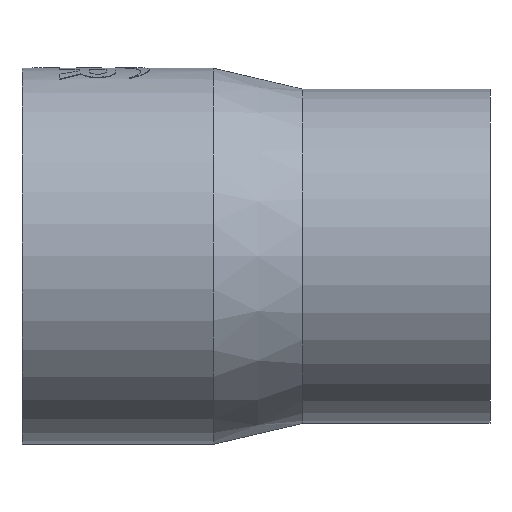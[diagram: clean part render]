
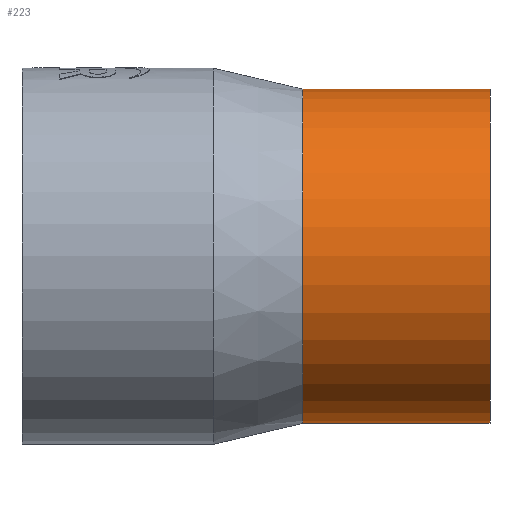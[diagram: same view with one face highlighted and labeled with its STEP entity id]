
A CAD part, front view. The second image highlights one B-rep face of the part: STEP entity #223.
In plain terms, the highlighted cylindrical face has radius 140 mm (diameter 280 mm), a partial arc.
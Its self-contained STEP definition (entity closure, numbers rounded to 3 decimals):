
#23 = AXIS2_PLACEMENT_3D ( 'NONE', #832, #820, #808 ) ;
#103 = VERTEX_POINT ( 'NONE', #2953 ) ;
#220 = AXIS2_PLACEMENT_3D ( 'NONE', #2822, #2896, #2737 ) ;
#223 = ADVANCED_FACE ( 'NONE', ( #2469 ), #2663, .T. ) ;
#376 = DIRECTION ( 'NONE',  ( -1., 0., 0. ) ) ;
#391 = CARTESIAN_POINT ( 'NONE',  ( -0.3, 0., 140. ) ) ;
#445 = EDGE_CURVE ( 'NONE', #103, #2338, #2123, .T. ) ;
#532 = CIRCLE ( 'NONE', #23, 140. ) ;
#589 = EDGE_CURVE ( 'NONE', #3137, #2338, #532, .T. ) ;
#597 = CARTESIAN_POINT ( 'NONE',  ( -0.3, 0., -140. ) ) ;
#600 = CARTESIAN_POINT ( 'NONE',  ( 392., 0., -140. ) ) ;
#674 = ORIENTED_EDGE ( 'NONE', *, *, #1846, .F. ) ;
#808 = DIRECTION ( 'NONE',  ( 0., 0., 1. ) ) ;
#820 = DIRECTION ( 'NONE',  ( -1., 0., 0. ) ) ;
#832 = CARTESIAN_POINT ( 'NONE',  ( 235., 0., 0. ) ) ;
#860 = DIRECTION ( 'NONE',  ( -1., 0., 0. ) ) ;
#1528 = EDGE_CURVE ( 'NONE', #1621, #103, #3227, .T. ) ;
#1621 = VERTEX_POINT ( 'NONE', #600 ) ;
#1665 = DIRECTION ( 'NONE',  ( 0., 0., 1. ) ) ;
#1677 = DIRECTION ( 'NONE',  ( -1., 0., 0. ) ) ;
#1691 = CARTESIAN_POINT ( 'NONE',  ( 392., 0., 0. ) ) ;
#1732 = CARTESIAN_POINT ( 'NONE',  ( 235., 0., -140. ) ) ;
#1750 = LINE ( 'NONE', #597, #1764 ) ;
#1764 = VECTOR ( 'NONE', #860, 1000. ) ;
#1813 = CARTESIAN_POINT ( 'NONE',  ( 235., 0., 140. ) ) ;
#1846 = EDGE_CURVE ( 'NONE', #1621, #3137, #1750, .T. ) ;
#1854 = VECTOR ( 'NONE', #376, 1000. ) ;
#1893 = ORIENTED_EDGE ( 'NONE', *, *, #1528, .T. ) ;
#2021 = AXIS2_PLACEMENT_3D ( 'NONE', #1691, #1677, #1665 ) ;
#2123 = LINE ( 'NONE', #391, #1854 ) ;
#2338 = VERTEX_POINT ( 'NONE', #1813 ) ;
#2469 = FACE_OUTER_BOUND ( 'NONE', #2519, .T. ) ;
#2519 = EDGE_LOOP ( 'NONE', ( #674, #1893, #2588, #3479 ) ) ;
#2588 = ORIENTED_EDGE ( 'NONE', *, *, #445, .T. ) ;
#2663 = CYLINDRICAL_SURFACE ( 'NONE', #220, 140. ) ;
#2737 = DIRECTION ( 'NONE',  ( 0., 0., 1. ) ) ;
#2822 = CARTESIAN_POINT ( 'NONE',  ( -0.3, 0., 0. ) ) ;
#2896 = DIRECTION ( 'NONE',  ( -1., 0., 0. ) ) ;
#2953 = CARTESIAN_POINT ( 'NONE',  ( 392., 0., 140. ) ) ;
#3137 = VERTEX_POINT ( 'NONE', #1732 ) ;
#3227 = CIRCLE ( 'NONE', #2021, 140. ) ;
#3479 = ORIENTED_EDGE ( 'NONE', *, *, #589, .F. ) ;
